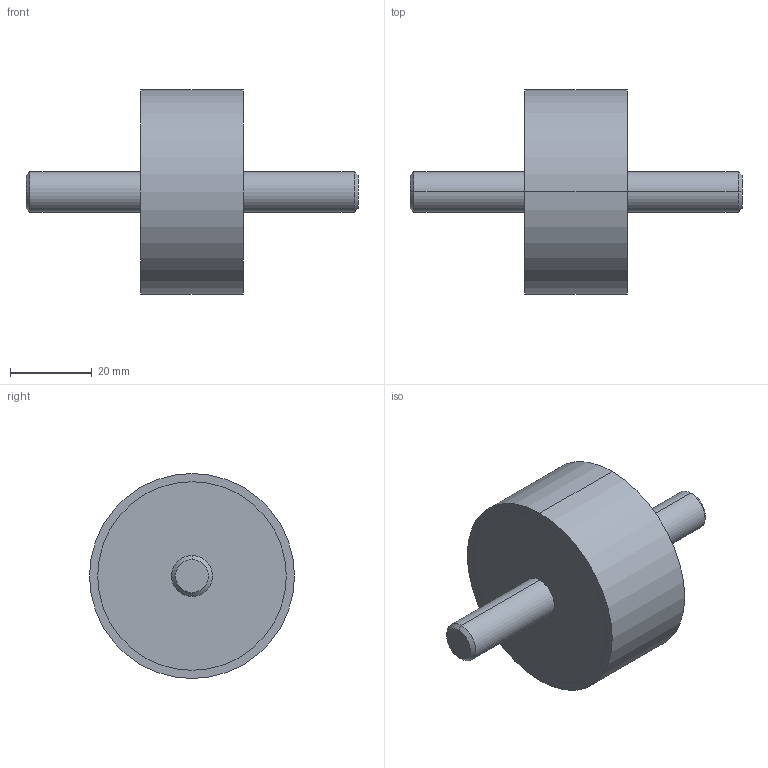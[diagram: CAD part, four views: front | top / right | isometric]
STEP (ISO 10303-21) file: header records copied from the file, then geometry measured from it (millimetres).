
FILE_DESCRIPTION (( 'STEP AP214' ), '1' );
FILE_NAME ('351-50-25-M10-SS-55.step', '2025-07-23T09:53:49', ( '' ), ( '' ), 'SwSTEP 2.0', 'SolidWorks 2022', '' );
FILE_SCHEMA (( 'AUTOMOTIVE_DESIGN' ));
Length unit declared in the file: millimetre
Products named in the file (1): 351-50-25-M10-SS-55
Bounding box: 81 x 50 x 50 mm (x, y, z)
Volume: 53427.4 mm3; surface area: 9579.5 mm2
Topology: 1 solids, 1 shells, 20 faces, 38 edges, 24 vertices
Faces by surface type: cylinder 10, plane 6, cone 4
Entity records: 636 total; most frequent: DIRECTION 104, CARTESIAN_POINT 83, ORIENTED_EDGE 76, AXIS2_PLACEMENT_3D 45, EDGE_CURVE 38, VERTEX_POINT 24, CIRCLE 24, EDGE_LOOP 24
